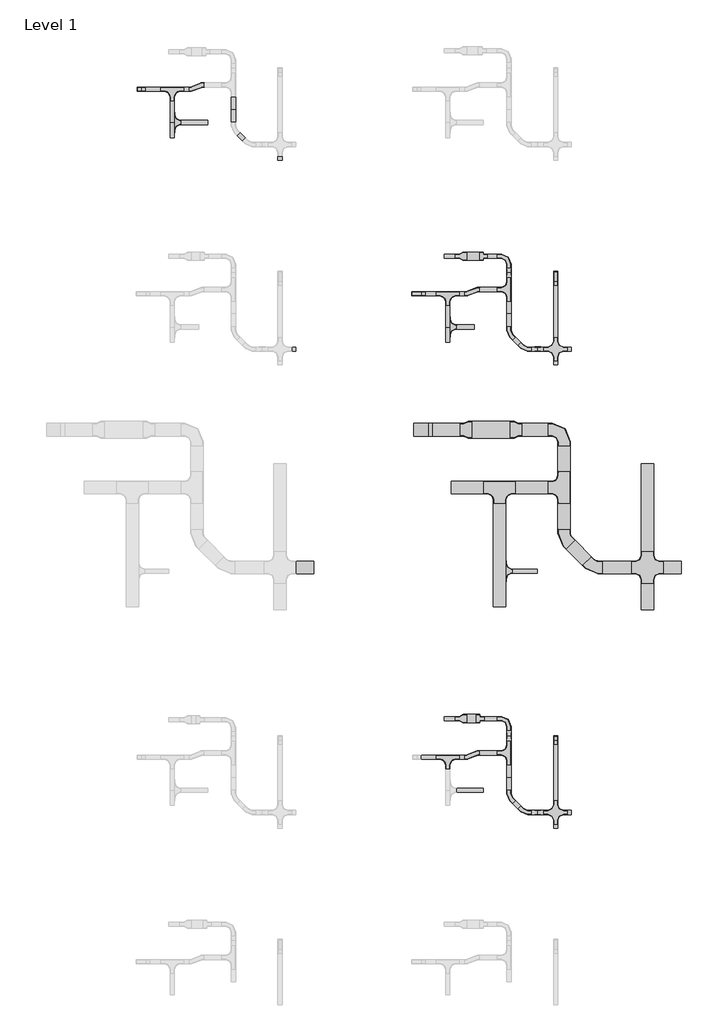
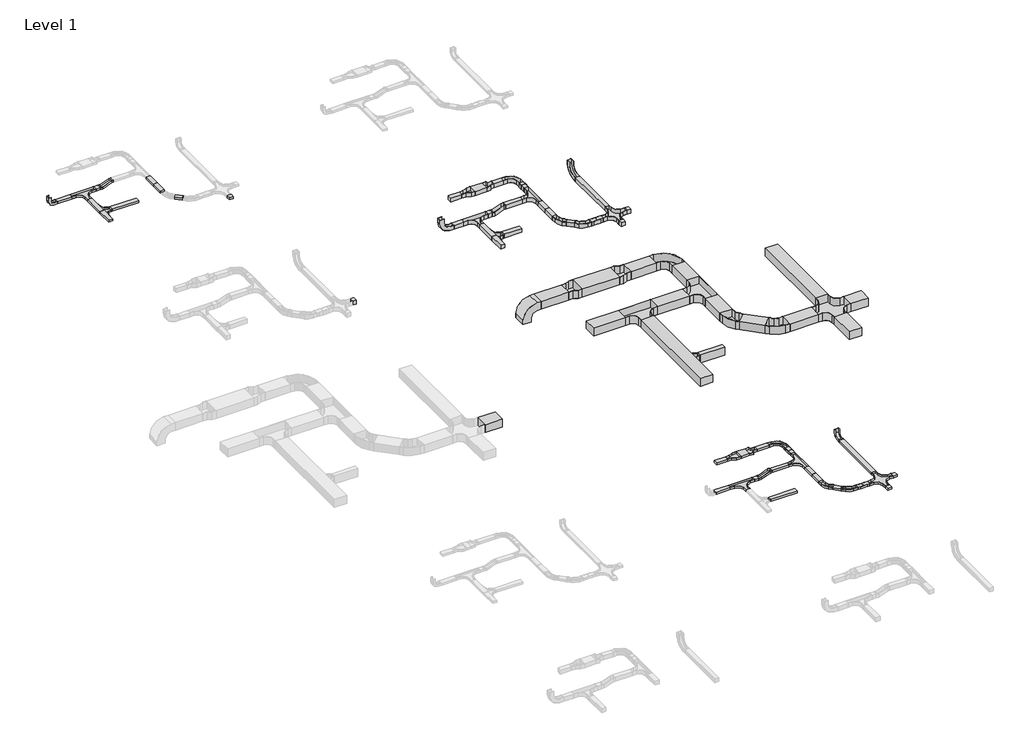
# One storey, part 3 of 7: 61 cable carrier segments, 40 cable carrier fittings.
"""IFC4 building model written with IfcOpenShell, lengths in millimetres."""

from ifc_helpers import new_model, si_unit, frame, origin, origin_with_axes, place, context, project, spatial, polyline, outline, extrude, transform, mapped, element, save
from components import cable_carrier_fitting_aaacfa07, cable_carrier_fitting_b0ef1419, cable_carrier_fitting_b06f5239, cable_carrier_fitting_c29a8226, cable_carrier_fitting_143960b7, cable_carrier_fitting_cc7a867a, cable_carrier_fitting_c2d22de5, cable_carrier_fitting_a196cc36, cable_carrier_fitting_4de17e9c, cable_carrier_fitting_7e9f8960, cable_carrier_fitting_9eb58628, cable_carrier_fitting_43fa0a0a, cable_carrier_fitting_37f5b24e, cable_carrier_fitting_3771e234, cable_carrier_fitting_3d14474d, cable_carrier_fitting_02b181c7, cable_carrier_fitting_d4cb8d73, cable_carrier_fitting_69659a00, cable_carrier_fitting_f591b558, cable_carrier_fitting_a9251f7c, cable_carrier_fitting_ed02f7b7, cable_carrier_fitting_4019ad99, cable_carrier_fitting_91e97af7, cable_carrier_fitting_eaf42c59, cable_carrier_fitting_6664680e, cable_carrier_fitting_0d8af748, cable_carrier_fitting_d9c8c3b4, cable_carrier_fitting_cb4cf4fc, rkh100_6825da00, rkh50_caab6538

model = new_model("IFC4")

# Units and contexts
model_context = context("Model", 3, world=origin())
ifc_project = project(units=[si_unit("LENGTHUNIT", "METRE", prefix="MILLI")], contexts=[model_context])

# Site, building, storey
site = spatial("IfcSite", under=ifc_project)
building = spatial("IfcBuilding", under=site)
storey = spatial("IfcBuildingStorey", under=building, Name="Level 1", Elevation=0.0)

# Cable carrier fittings
placement = place(None, origin())
cable_carrier_fitting_shape = cable_carrier_fitting_aaacfa07(model_context)
element("IfcCableCarrierFitting", 1, ObjectType="BAKS_Plate_connector : LZCH100", at=placement, inside=storey, context=model_context, shape_type="MappedRepresentation", body=[
    mapped(cable_carrier_fitting_shape, transform((-10770.1659964, 30949.0221963, 50.0), x_axis=(0.0, -1.0, 0.0), y_axis=(1.0, 0.0, 0.0), z_axis=(0.0, 0.0, 1.0))),
])
element("IfcCableCarrierFitting", 2, ObjectType="BAKS_Plate_connector : LZCH100", at=placement, inside=storey, context=model_context, shape_type="MappedRepresentation", body=[
    mapped(cable_carrier_fitting_shape, transform((-10081.6917019, 29108.6669458, 50.0), x_axis=(-1.0, 0.0, 0.0), y_axis=(0.0, -1.0, 0.0), z_axis=(0.0, 0.0, 1.0))),
])
cable_carrier_fitting_2_shape = cable_carrier_fitting_b0ef1419(model_context)
element("IfcCableCarrierFitting", 3, ObjectType="BAKS_Plate_connector : LZCH50", at=placement, inside=storey, context=model_context, shape_type="MappedRepresentation", body=[
    mapped(cable_carrier_fitting_2_shape, transform((-10770.1659964, 19849.0221963, 50.0), x_axis=(0.0, -1.0, 0.0), y_axis=(1.0, 0.0, 0.0), z_axis=(0.0, 0.0, 1.0))),
])
element("IfcCableCarrierFitting", 4, ObjectType="BAKS_Plate_connector : LZCH50", at=placement, inside=storey, context=model_context, shape_type="MappedRepresentation", body=[
    mapped(cable_carrier_fitting_2_shape, transform((-10081.6917019, 18008.6669458, 50.0), x_axis=(-1.0, 0.0, 0.0), y_axis=(0.0, -1.0, 0.0), z_axis=(0.0, 0.0, 1.0))),
])
cable_carrier_fitting_3_shape = cable_carrier_fitting_b06f5239(model_context)
element("IfcCableCarrierFitting", 5, ObjectType="BAKS_Tee_TKZD : TKZDPH200", at=placement, inside=storey, context=model_context, shape_type="MappedRepresentation", body=[
    mapped(cable_carrier_fitting_3_shape, transform((-10842.1461338, 23790.6717205, 0.0), x_axis=(0.0, 1.0, 0.0), y_axis=(-1.0, 0.0, 0.0), z_axis=(0.0, 0.0, 1.0))),
])
cable_carrier_fitting_4_shape = cable_carrier_fitting_c29a8226(model_context)
element("IfcCableCarrierFitting", 6, ObjectType="BAKS_Tee_TKZD : TKZDPH50", at=placement, inside=storey, context=model_context, shape_type="MappedRepresentation", body=[
    mapped(cable_carrier_fitting_4_shape, transform((-18785.25983, 34537.8311496, 50.0), x_axis=(0.0, 1.0, 0.0), y_axis=(-1.0, 0.0, 0.0), z_axis=(0.0, 0.0, 1.0))),
])
cable_carrier_fitting_5_shape = cable_carrier_fitting_143960b7(model_context)
element("IfcCableCarrierFitting", 7, ObjectType="BAKS_Tee_TKZD : TKZDPH100", at=placement, inside=storey, context=model_context, shape_type="MappedRepresentation", body=[
    mapped(cable_carrier_fitting_5_shape, transform((-12185.25983, 29637.8311496, 50.0), x_axis=(0.0, 1.0, 0.0), y_axis=(-1.0, 0.0, 0.0), z_axis=(0.0, 0.0, 1.0))),
])
cable_carrier_fitting_6_shape = cable_carrier_fitting_cc7a867a(model_context)
element("IfcCableCarrierFitting", 8, ObjectType="BAKS_Tee_TKZ : TKZPH50", at=placement, inside=storey, context=model_context, shape_type="MappedRepresentation", body=[
    mapped(cable_carrier_fitting_6_shape, transform((-18835.25983, 35336.0286879, 50.0), x_axis=(1.0, 0.0, 0.0), y_axis=(0.0, 1.0, 0.0), z_axis=(0.0, 0.0, 1.0))),
])
cable_carrier_fitting_7_shape = cable_carrier_fitting_c2d22de5(model_context)
element("IfcCableCarrierFitting", 9, ObjectType="BAKS_Tee_TKZ : TKZCH100", at=placement, inside=storey, context=model_context, shape_type="MappedRepresentation", body=[
    mapped(cable_carrier_fitting_7_shape, transform((-12235.25983, 30436.0286879, 50.0), x_axis=(1.0, 0.0, 0.0), y_axis=(0.0, 1.0, 0.0), z_axis=(0.0, 0.0, 1.0))),
])
element("IfcCableCarrierFitting", 10, ObjectType="BAKS_Tee_TKZ : TKZCH100", at=placement, inside=storey, context=model_context, shape_type="MappedRepresentation", body=[
    mapped(cable_carrier_fitting_7_shape, transform((-10770.1659964, 30536.0286879, 50.0), x_axis=(0.0, -1.0, 0.0), y_axis=(1.0, 0.0, 0.0), z_axis=(0.0, 0.0, 1.0))),
])
cable_carrier_fitting_8_shape = cable_carrier_fitting_a196cc36(model_context)
element("IfcCableCarrierFitting", 11, ObjectType="BAKS_Tee_TKZ : TKZCH50", at=placement, inside=storey, context=model_context, shape_type="MappedRepresentation", body=[
    mapped(cable_carrier_fitting_8_shape, transform((-12235.25983, 19336.0286879, 50.0), x_axis=(1.0, 0.0, 0.0), y_axis=(0.0, 1.0, 0.0), z_axis=(0.0, 0.0, 1.0))),
])
element("IfcCableCarrierFitting", 12, ObjectType="BAKS_Tee_TKZ : TKZCH50", at=placement, inside=storey, context=model_context, shape_type="MappedRepresentation", body=[
    mapped(cable_carrier_fitting_8_shape, transform((-10770.1659964, 19436.0286879, 50.0), x_axis=(0.0, -1.0, 0.0), y_axis=(1.0, 0.0, 0.0), z_axis=(0.0, 0.0, 1.0))),
])
cable_carrier_fitting_9_shape = cable_carrier_fitting_4de17e9c(model_context)
element("IfcCableCarrierFitting", 13, ObjectType="BAKS_Cross-section_CZKZ : CZKZCH50", at=placement, inside=storey, context=model_context, shape_type="MappedRepresentation", body=[
    mapped(cable_carrier_fitting_9_shape, transform((-9653.0791495, 18008.6669458, 50.0), x_axis=(-1.0, 0.0, 0.0), y_axis=(0.0, -1.0, 0.0), z_axis=(0.0, 0.0, 1.0))),
])
cable_carrier_fitting_10_shape = cable_carrier_fitting_7e9f8960(model_context)
element("IfcCableCarrierFitting", 14, ObjectType="BAKS_Cross-section_CZKZ : CZKZCH100", at=placement, inside=storey, context=model_context, shape_type="MappedRepresentation", body=[
    mapped(cable_carrier_fitting_10_shape, transform((-9653.0791495, 29108.6669458, 50.0), x_axis=(1.0, 0.0, 0.0), y_axis=(0.0, 1.0, 0.0), z_axis=(0.0, 0.0, 1.0))),
])
cable_carrier_fitting_11_shape = cable_carrier_fitting_9eb58628(model_context)
element("IfcCableCarrierFitting", 15, ObjectType="BAKS_Reduction-symmetrical_RKZ : RKZCH50", at=placement, inside=storey, context=model_context, shape_type="MappedRepresentation", body=[
    mapped(cable_carrier_fitting_11_shape, transform((-11765.6659964, 20257.0157047, 50.0), x_axis=(-1.0, 0.0, 0.0), y_axis=(0.0, -1.0, 0.0), z_axis=(0.0, 0.0, 1.0))),
])
cable_carrier_fitting_12_shape = cable_carrier_fitting_43fa0a0a(model_context)
element("IfcCableCarrierFitting", 16, ObjectType="BAKS_Reduction-symmetrical_RKZ : RKZCH100", at=placement, inside=storey, context=model_context, shape_type="MappedRepresentation", body=[
    mapped(cable_carrier_fitting_12_shape, transform((-11765.6659964, 31332.0157047, 50.0), x_axis=(-1.0, 0.0, 0.0), y_axis=(0.0, -1.0, 0.0), z_axis=(0.0, 0.0, 1.0))),
])
cable_carrier_fitting_13_shape = cable_carrier_fitting_37f5b24e(model_context)
element("IfcCableCarrierFitting", 17, ObjectType="BAKS_Bypass_horizontal_left_OPZL : OPZLCH50", at=placement, inside=storey, context=model_context, shape_type="MappedRepresentation", body=[
    mapped(cable_carrier_fitting_13_shape, transform((-11655.25983, 19386.0286879, 25.0), x_axis=(1.0, 0.0, 0.0), y_axis=(0.0, 1.0, 0.0), z_axis=(0.0, 0.0, 1.0))),
])
cable_carrier_fitting_14_shape = cable_carrier_fitting_3771e234(model_context)
element("IfcCableCarrierFitting", 18, ObjectType="BAKS_Bypass_horizontal_left_OPZL : OPZLCH100", at=placement, inside=storey, context=model_context, shape_type="MappedRepresentation", body=[
    mapped(cable_carrier_fitting_14_shape, transform((-11655.25983, 30486.0286879, 0.0), x_axis=(1.0, 0.0, 0.0), y_axis=(0.0, 1.0, 0.0), z_axis=(0.0, 0.0, 1.0))),
])
cable_carrier_fitting_15_shape = cable_carrier_fitting_3d14474d(model_context)
element("IfcCableCarrierFitting", 19, ObjectType="BAKS_Bypass_horizontal_left_OPZL : OPZLPH50", at=placement, inside=storey, context=model_context, shape_type="MappedRepresentation", body=[
    mapped(cable_carrier_fitting_15_shape, transform((-18255.25983, 35386.0286879, 25.0), x_axis=(1.0, 0.0, 0.0), y_axis=(0.0, 1.0, 0.0), z_axis=(0.0, 0.0, 1.0))),
])
cable_carrier_fitting_16_shape = cable_carrier_fitting_02b181c7(model_context)
element("IfcCableCarrierFitting", 20, ObjectType="BAKS_Elbow_KKZ : KKZC/KKZMC...H50", at=placement, inside=storey, context=model_context, shape_type="MappedRepresentation", body=[
    mapped(cable_carrier_fitting_16_shape, transform((-10399.0048312, 18008.6669458, 50.0), x_axis=(0.7071067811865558, -0.7071067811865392, 0.0), y_axis=(0.7071067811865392, 0.7071067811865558, 0.0), z_axis=(0.0, 0.0, 1.0))),
])
element("IfcCableCarrierFitting", 21, ObjectType="BAKS_Elbow_KKZ : KKZC/KKZMC...H50", at=placement, inside=storey, context=model_context, shape_type="MappedRepresentation", body=[
    mapped(cable_carrier_fitting_16_shape, transform((-10770.1659964, 18379.8281111, 50.0), x_axis=(0.0, -1.0, 0.0), y_axis=(1.0, 0.0, 0.0), z_axis=(0.0, 0.0, 1.0))),
])
cable_carrier_fitting_17_shape = cable_carrier_fitting_d4cb8d73(model_context)
element("IfcCableCarrierFitting", 22, ObjectType="BAKS_Elbow_KKZ : KKZC/KKZMC...H100", at=placement, inside=storey, context=model_context, shape_type="MappedRepresentation", body=[
    mapped(cable_carrier_fitting_17_shape, transform((-10399.0048312, 29108.6669458, 50.0), x_axis=(0.7071067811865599, -0.7071067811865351, 0.0), y_axis=(0.7071067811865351, 0.7071067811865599, 0.0), z_axis=(0.0, 0.0, 1.0))),
])
element("IfcCableCarrierFitting", 23, ObjectType="BAKS_Elbow_KKZ : KKZC/KKZMC...H100", at=placement, inside=storey, context=model_context, shape_type="MappedRepresentation", body=[
    mapped(cable_carrier_fitting_17_shape, transform((-10770.1659964, 29479.8281111, 50.0), x_axis=(0.0, -1.0, 0.0), y_axis=(1.0, 0.0, 0.0), z_axis=(0.0, 0.0, 1.0))),
])
cable_carrier_fitting_18_shape = cable_carrier_fitting_69659a00(model_context)
element("IfcCableCarrierFitting", 24, ObjectType="BAKS_Elbow_KKZ : KKZC/KKZMC...H100", at=placement, inside=storey, context=model_context, shape_type="MappedRepresentation", body=[
    mapped(cable_carrier_fitting_18_shape, transform((-10770.1659964, 31332.0157047, 50.0), x_axis=(0.0, 1.0, 0.0), y_axis=(-1.0, 0.0, 0.0), z_axis=(0.0, 0.0, 1.0))),
])
cable_carrier_fitting_19_shape = cable_carrier_fitting_f591b558(model_context)
element("IfcCableCarrierFitting", 25, ObjectType="BAKS_Elbow_KKZ : KKZC/KKZMC...H50", at=placement, inside=storey, context=model_context, shape_type="MappedRepresentation", body=[
    mapped(cable_carrier_fitting_19_shape, transform((-10770.1659964, 20257.0157047, 50.0), x_axis=(0.0, 1.0, 0.0), y_axis=(-1.0, 0.0, 0.0), z_axis=(0.0, 0.0, 1.0))),
])
cable_carrier_fitting_20_shape = cable_carrier_fitting_a9251f7c(model_context)
element("IfcCableCarrierFitting", 26, ObjectType="BAKS_Vertical_bend_int : LZWPH50/LZWMPH50", at=placement, inside=storey, context=model_context, shape_type="MappedRepresentation", body=[
    mapped(cable_carrier_fitting_20_shape, transform((-19652.5998175, 35336.0286879, 50.0), x_axis=(-1.0, 0.0, 0.0), y_axis=(0.0, 0.0, 1.0), z_axis=(0.0, 1.0, 0.0))),
])
element("IfcCableCarrierFitting", 27, ObjectType="BAKS_Vertical_bend_int : LZWCH50/LZWMCH50", at=placement, inside=storey, context=model_context, shape_type="MappedRepresentation", body=[
    mapped(cable_carrier_fitting_20_shape, transform((-9653.0791495, 19818.5286879, 50.0), x_axis=(0.0, 1.0, 0.0), y_axis=(0.0, 0.0, 1.0), z_axis=(1.0, 0.0, 0.0))),
])
cable_carrier_fitting_21_shape = cable_carrier_fitting_ed02f7b7(model_context)
element("IfcCableCarrierFitting", 28, ObjectType="BAKS_Vertical_bend_int : LZWCH100/LZWMCH100", at=placement, inside=storey, context=model_context, shape_type="MappedRepresentation", body=[
    mapped(cable_carrier_fitting_21_shape, transform((-13052.5998175, 30436.0286879, 50.0), x_axis=(-1.0, 0.0, 0.0), y_axis=(0.0, 0.0, 1.0), z_axis=(0.0, 1.0, 0.0))),
])
element("IfcCableCarrierFitting", 29, ObjectType="BAKS_Vertical_bend_int : LZWCH100/LZWMCH100", at=placement, inside=storey, context=model_context, shape_type="MappedRepresentation", body=[
    mapped(cable_carrier_fitting_21_shape, transform((-9653.0791495, 30918.5286879, 50.0), x_axis=(0.0, 1.0, 0.0), y_axis=(0.0, 0.0, 1.0), z_axis=(1.0, 0.0, 0.0))),
])
cable_carrier_fitting_22_shape = cable_carrier_fitting_4019ad99(model_context)
element("IfcCableCarrierFitting", 30, ObjectType="BAKS_Vertical_bend_int : LZWPH200/LZWMPH200", at=placement, inside=storey, context=model_context, shape_type="MappedRepresentation", body=[
    mapped(cable_carrier_fitting_22_shape, transform((-12947.1461338, 27177.2890583, 50.0), x_axis=(-1.0, 0.0, 0.0), y_axis=(0.0, 0.0, -1.0), z_axis=(0.0, -1.0, 0.0))),
])
cable_carrier_fitting_23_shape = cable_carrier_fitting_91e97af7(model_context)
element("IfcCableCarrierFitting", 31, ObjectType="BAKS_Elbow_KKZ : KKZC/KKZMC...H200", at=placement, inside=storey, context=model_context, shape_type="MappedRepresentation", body=[
    mapped(cable_carrier_fitting_23_shape, transform((-8747.1134218, 23877.2563463, 50.0), x_axis=(0.7071067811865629, -0.7071067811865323, 0.0), y_axis=(0.7071067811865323, 0.7071067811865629, 0.0), z_axis=(0.0, 0.0, 1.0))),
])
element("IfcCableCarrierFitting", 32, ObjectType="BAKS_Elbow_KKZ : KKZC/KKZMC...H200", at=placement, inside=storey, context=model_context, shape_type="MappedRepresentation", body=[
    mapped(cable_carrier_fitting_23_shape, transform((-9447.1461338, 24577.2890583, 50.0), x_axis=(0.0, -1.0, 0.0), y_axis=(1.0, 0.0, 0.0), z_axis=(0.0, 0.0, 1.0))),
])
cable_carrier_fitting_24_shape = cable_carrier_fitting_eaf42c59(model_context)
element("IfcCableCarrierFitting", 33, ObjectType="BAKS_Elbow_KKZ : KKZC/KKZMC...H200", at=placement, inside=storey, context=model_context, shape_type="MappedRepresentation", body=[
    mapped(cable_carrier_fitting_24_shape, transform((-9447.1461338, 27177.2890583, 50.0), x_axis=(0.0, 1.0, 0.0), y_axis=(-1.0, 0.0, 0.0), z_axis=(0.0, 0.0, 1.0))),
])
cable_carrier_fitting_25_shape = cable_carrier_fitting_6664680e(model_context)
element("IfcCableCarrierFitting", 34, ObjectType="BAKS_Cross-section_CZKZ : CZKZCH200", at=placement, inside=storey, context=model_context, shape_type="MappedRepresentation", body=[
    mapped(cable_carrier_fitting_25_shape, transform((-7453.0791495, 23877.2563463, 50.0), x_axis=(1.0, 0.0, 0.0), y_axis=(0.0, 1.0, 0.0), z_axis=(0.0, 0.0, 1.0))),
])
cable_carrier_fitting_26_shape = cable_carrier_fitting_0d8af748(model_context)
element("IfcCableCarrierFitting", 35, ObjectType="BAKS_Tee_TKZ : TKZCH200", at=placement, inside=storey, context=model_context, shape_type="MappedRepresentation", body=[
    mapped(cable_carrier_fitting_26_shape, transform((-9447.1461338, 25792.3500248, 50.0), x_axis=(0.0, -1.0, 0.0), y_axis=(1.0, 0.0, 0.0), z_axis=(0.0, 0.0, 1.0))),
])
element("IfcCableCarrierFitting", 36, ObjectType="BAKS_Tee_TKZ : TKZCH200", at=placement, inside=storey, context=model_context, shape_type="MappedRepresentation", body=[
    mapped(cable_carrier_fitting_26_shape, transform((-10992.1461338, 25792.3500248, 50.0), x_axis=(1.0, 0.0, 0.0), y_axis=(0.0, 1.0, 0.0), z_axis=(0.0, 0.0, 1.0))),
])
cable_carrier_fitting_27_shape = cable_carrier_fitting_d9c8c3b4(model_context)
element("IfcCableCarrierFitting", 37, ObjectType="BAKS_Reduction-symmetrical_RKZ : RKZCH200", at=placement, inside=storey, context=model_context, shape_type="MappedRepresentation", body=[
    mapped(cable_carrier_fitting_27_shape, transform((-11647.1461338, 27177.2890583, 50.0), x_axis=(-1.0, 0.0, 0.0), y_axis=(0.0, -1.0, 0.0), z_axis=(0.0, 0.0, 1.0))),
])
cable_carrier_fitting_28_shape = cable_carrier_fitting_cb4cf4fc(model_context)
element("IfcCableCarrierFitting", 38, ObjectType="BAKS_Reduction-symmetrical_RKZ : RKZCH200", at=placement, inside=storey, context=model_context, shape_type="MappedRepresentation", body=[
    mapped(cable_carrier_fitting_28_shape, transform((-10447.1461338, 27177.2890583, 50.0), x_axis=(-1.0, 0.0, 0.0), y_axis=(0.0, -1.0, 0.0), z_axis=(0.0, 0.0, 1.0))),
])
rkh100_shape = rkh100_6825da00(model_context)
element("IfcCableCarrierFitting", 39, ObjectType="BAKS_Reduction-angular_RK : RKH100", at=placement, inside=storey, context=model_context, shape_type="MappedRepresentation", body=[
    mapped(rkh100_shape, transform((-11487.711196, 31332.0157047, 50.0), x_axis=(1.0, 0.0, 0.0), y_axis=(0.0, 1.0, 0.0), z_axis=(0.0, 0.0, 1.0))),
])
rkh50_shape = rkh50_caab6538(model_context)
element("IfcCableCarrierFitting", 40, ObjectType="BAKS_Reduction-angular_RK : RKH50", at=placement, inside=storey, context=model_context, shape_type="MappedRepresentation", body=[
    mapped(rkh50_shape, transform((-11564.1695214, 20257.0157047, 50.0), x_axis=(1.0, 0.0, 0.0), y_axis=(0.0, 1.0, 0.0), z_axis=(0.0, 0.0, 1.0))),
])

# Cable carrier segments
element("IfcCableCarrierSegment", 41, ObjectType="BAKS - Reinforced cable tray H50 (KZWP)", at=placement, inside=storey, context=model_context, shape_type="SweptSolid", body=[
    extrude(outline(polyline([(-18445.25983, 35386.0286879), (-18445.25983, 35286.0286879), (-18545.25983, 35286.0286879), (-18545.25983, 35386.0286879), (-18445.25983, 35386.0286879)])), frame((0.0, 0.0, 25.0), z_axis=(0.0, 0.0, 1.0), x_axis=(1.0, 0.0, 0.0)), (0.0, 0.0, 1.0), 50.0),
])
element("IfcCableCarrierSegment", 42, ObjectType="BAKS - Reinforced cable tray H50 (KZWP)", at=placement, inside=storey, context=model_context, shape_type="SweptSolid", body=[
    extrude(outline(polyline([(-18885.25983, 35046.0286879), (-18785.25983, 35046.0286879), (-18785.25983, 34538.373241), (-18885.25983, 34538.373241), (-18885.25983, 35046.0286879)])), frame((0.0, 0.0, 25.0), z_axis=(0.0, 0.0, 1.0), x_axis=(1.0, 0.0, 0.0)), (0.0, 0.0, 1.0), 50.0),
])
element("IfcCableCarrierSegment", 43, ObjectType="BAKS - Reinforced cable tray H50 (KZWP)", at=placement, inside=storey, context=model_context, shape_type="SweptSolid", body=[
    extrude(outline(polyline([(-18885.25983, 34537.2890583), (-18785.25983, 34537.2890583), (-18785.25983, 34177.2890583), (-18885.25983, 34177.2890583), (-18885.25983, 34537.2890583)])), frame((0.0, 0.0, 25.0), z_axis=(0.0, 0.0, 1.0), x_axis=(1.0, 0.0, 0.0)), (0.0, 0.0, 1.0), 50.0),
])
element("IfcCableCarrierSegment", 44, ObjectType="BAKS - Reinforced cable tray H50 (KZWP)", at=placement, inside=storey, context=model_context, shape_type="SweptSolid", body=[
    extrude(outline(polyline([(-19125.25983, 35386.0286879), (-19125.25983, 35286.0286879), (-19467.5998175, 35286.0286879), (-19467.5998175, 35386.0286879), (-19125.25983, 35386.0286879)])), frame((0.0, 0.0, 25.0), z_axis=(0.0, 0.0, 1.0), x_axis=(1.0, 0.0, 0.0)), (0.0, 0.0, 1.0), 50.0),
])
element("IfcCableCarrierSegment", 45, ObjectType="BAKS - Reinforced cable tray H100 (KZWC)", at=placement, inside=storey, context=model_context, shape_type="SweptSolid", body=[
    extrude(outline(polyline([(-12065.6659964, 31382.0157047), (-12065.6659964, 31282.0157047), (-12324.6659964, 31282.0157047), (-12324.6659964, 31382.0157047), (-12065.6659964, 31382.0157047)])), origin_with_axes(), (0.0, 0.0, 1.0), 100.0),
])
element("IfcCableCarrierSegment", 46, ObjectType="BAKS - Reinforced cable tray H100 (KZWC)", at=placement, inside=storey, context=model_context, shape_type="SweptSolid", body=[
    extrude(outline(polyline([(-11765.6659964, 31232.0157047), (-11765.6659964, 31432.0157047), (-11487.711196, 31432.0157047), (-11487.711196, 31232.0157047), (-11765.6659964, 31232.0157047)])), origin_with_axes(), (0.0, 0.0, 1.0), 100.0),
])
element("IfcCableCarrierSegment", 47, ObjectType="BAKS - Reinforced cable tray H100 (KZWC)", at=placement, inside=storey, context=model_context, shape_type="SweptSolid", body=[
    extrude(outline(polyline([(-11845.25983, 30486.0286879), (-11845.25983, 30386.0286879), (-11945.25983, 30386.0286879), (-11945.25983, 30486.0286879), (-11845.25983, 30486.0286879)])), origin_with_axes(), (0.0, 0.0, 1.0), 100.0),
])
element("IfcCableCarrierSegment", 48, ObjectType="BAKS - Reinforced cable tray H100 (KZWC)", at=placement, inside=storey, context=model_context, shape_type="SweptSolid", body=[
    extrude(outline(polyline([(-12762.5998175, 30386.0286879), (-12762.5998175, 30486.0286879), (-12525.25983, 30486.0286879), (-12525.25983, 30386.0286879), (-12762.5998175, 30386.0286879)])), origin_with_axes(), (0.0, 0.0, 1.0), 100.0),
])
element("IfcCableCarrierSegment", 49, ObjectType="BAKS - Reinforced cable tray H100 (KZWC)", at=placement, inside=storey, context=model_context, shape_type="SweptSolid", body=[
    extrude(outline(polyline([(-12285.25983, 30146.0286879), (-12185.25983, 30146.0286879), (-12185.25983, 29638.373241), (-12285.25983, 29638.373241), (-12285.25983, 30146.0286879)])), origin_with_axes(), (0.0, 0.0, 1.0), 100.0),
])
element("IfcCableCarrierSegment", 50, ObjectType="BAKS - Reinforced cable tray H100 (KZWC)", at=placement, inside=storey, context=model_context, shape_type="SweptSolid", body=[
    extrude(outline(polyline([(-12285.25983, 29637.2890583), (-12185.25983, 29637.2890583), (-12185.25983, 29277.2890583), (-12285.25983, 29277.2890583), (-12285.25983, 29637.2890583)])), origin_with_axes(), (0.0, 0.0, 1.0), 100.0),
])
element("IfcCableCarrierSegment", 51, ObjectType="BAKS - Reinforced cable tray with welded connector H50 (KZLWC)", at=placement, inside=storey, context=model_context, shape_type="SweptSolid", body=[
    extrude(outline(polyline([(-11564.1695214, 20357.0157047), (-11564.1695214, 20157.0157047), (-11765.6659964, 20157.0157047), (-11765.6659964, 20357.0157047), (-11564.1695214, 20357.0157047)])), frame((0.0, 0.0, 25.0), z_axis=(0.0, 0.0, 1.0), x_axis=(1.0, 0.0, 0.0)), (0.0, 0.0, 1.0), 50.0),
])
element("IfcCableCarrierSegment", 52, ObjectType="BAKS - Reinforced cable tray with welded connector H50 (KZLWC)", at=placement, inside=storey, context=model_context, shape_type="SweptSolid", body=[
    extrude(outline(polyline([(-12065.6659964, 20307.0157047), (-12065.6659964, 20207.0157047), (-12324.6659964, 20207.0157047), (-12324.6659964, 20307.0157047), (-12065.6659964, 20307.0157047)])), frame((0.0, 0.0, 25.0), z_axis=(0.0, 0.0, 1.0), x_axis=(1.0, 0.0, 0.0)), (0.0, 0.0, 1.0), 50.0),
])
element("IfcCableCarrierSegment", 53, ObjectType="BAKS - Reinforced cable tray with welded connector H50 (KZLWC)", at=placement, inside=storey, context=model_context, shape_type="SweptSolid", body=[
    extrude(outline(polyline([(-11845.25983, 19386.0286879), (-11845.25983, 19286.0286879), (-11945.25983, 19286.0286879), (-11945.25983, 19386.0286879), (-11845.25983, 19386.0286879)])), frame((0.0, 0.0, 25.0), z_axis=(0.0, 0.0, 1.0), x_axis=(1.0, 0.0, 0.0)), (0.0, 0.0, 1.0), 50.0),
])
element("IfcCableCarrierSegment", 54, ObjectType="BAKS - Reinforced cable tray with welded connector H50 (KZLWC)", at=placement, inside=storey, context=model_context, shape_type="SweptSolid", body=[
    extrude(outline(polyline([(-12525.25983, 19386.0286879), (-12525.25983, 19286.0286879), (-12867.5998175, 19286.0286879), (-12867.5998175, 19386.0286879), (-12525.25983, 19386.0286879)])), frame((0.0, 0.0, 25.0), z_axis=(0.0, 0.0, 1.0), x_axis=(1.0, 0.0, 0.0)), (0.0, 0.0, 1.0), 50.0),
])
element("IfcCableCarrierSegment", 55, ObjectType="BAKS - Reinforced cable tray H50 (KZWP)", at=placement, inside=storey, context=model_context, shape_type="SweptSolid", body=[
    extrude(outline(polyline([(-17420.1659964, 35146.0286879), (-17320.1659964, 35146.0286879), (-17320.1659964, 34853.2786879), (-17420.1659964, 34853.2786879), (-17420.1659964, 35146.0286879)])), frame((0.0, 0.0, 25.0), z_axis=(0.0, 0.0, 1.0), x_axis=(1.0, 0.0, 0.0)), (0.0, 0.0, 1.0), 50.0),
])
element("IfcCableCarrierSegment", 56, ObjectType="BAKS - Reinforced cable tray H50 (KZWP)", at=placement, inside=storey, context=model_context, shape_type="SweptSolid", body=[
    extrude(outline(polyline([(-17090.0098818, 34170.3826746), (-17160.72056, 34099.6719965), (-17279.1609458, 34218.1123823), (-17208.4502677, 34288.8230604), (-17090.0098818, 34170.3826746)])), frame((0.0, 0.0, 25.0), z_axis=(0.0, 0.0, 1.0), x_axis=(1.0, 0.0, 0.0)), (0.0, 0.0, 1.0), 50.0),
])
element("IfcCableCarrierSegment", 57, ObjectType="BAKS - Reinforced cable tray H50 (KZWP)", at=placement, inside=storey, context=model_context, shape_type="SweptSolid", body=[
    extrude(outline(polyline([(-17320.1659964, 34558.5286879), (-17420.1659964, 34558.5286879), (-17420.1659964, 34852.2786879), (-17320.1659964, 34852.2786879), (-17320.1659964, 34558.5286879)])), frame((0.0, 0.0, 25.0), z_axis=(0.0, 0.0, 1.0), x_axis=(1.0, 0.0, 0.0)), (0.0, 0.0, 1.0), 50.0),
])
element("IfcCableCarrierSegment", 58, ObjectType="BAKS - Reinforced cable tray H50 (KZWP)", at=placement, inside=storey, context=model_context, shape_type="SweptSolid", body=[
    extrude(outline(polyline([(-16203.0791495, 33628.6910816), (-16303.0791495, 33628.6910816), (-16303.0791495, 33718.6669458), (-16203.0791495, 33718.6669458), (-16203.0791495, 33628.6910816)])), frame((0.0, 0.0, 25.0), z_axis=(0.0, 0.0, 1.0), x_axis=(1.0, 0.0, 0.0)), (0.0, 0.0, 1.0), 50.0),
])
element("IfcCableCarrierSegment", 59, ObjectType="BAKS - Reinforced cable tray H100 (KZWP)", at=placement, inside=storey, context=model_context, shape_type="SweptSolid", body=[
    extrude(outline(polyline([(-15878.9791495, 29158.6669458), (-15878.9791495, 29058.6669458), (-15963.0791495, 29058.6669458), (-15963.0791495, 29158.6669458), (-15878.9791495, 29158.6669458)])), origin_with_axes(), (0.0, 0.0, 1.0), 100.0),
])
element("IfcCableCarrierSegment", 60, ObjectType="BAKS - Reinforced cable tray H100 (KZWC)", at=placement, inside=storey, context=model_context, shape_type="SweptSolid", body=[
    extrude(outline(polyline([(-10820.1659964, 30246.0286879), (-10720.1659964, 30246.0286879), (-10720.1659964, 29953.2786879), (-10820.1659964, 29953.2786879), (-10820.1659964, 30246.0286879)])), origin_with_axes(), (0.0, 0.0, 1.0), 100.0),
])
element("IfcCableCarrierSegment", 61, ObjectType="BAKS - Reinforced cable tray H100 (KZWC)", at=placement, inside=storey, context=model_context, shape_type="SweptSolid", body=[
    extrude(outline(polyline([(-9943.0791495, 29158.6669458), (-9943.0791495, 29058.6669458), (-10081.6917019, 29058.6669458), (-10081.6917019, 29158.6669458), (-9943.0791495, 29158.6669458)])), origin_with_axes(), (0.0, 0.0, 1.0), 100.0),
])
element("IfcCableCarrierSegment", 62, ObjectType="BAKS - Reinforced cable tray H100 (KZWC)", at=placement, inside=storey, context=model_context, shape_type="SweptSolid", body=[
    extrude(outline(polyline([(-10082.6917019, 29158.6669458), (-10082.6917019, 29058.6669458), (-10220.3042544, 29058.6669458), (-10220.3042544, 29158.6669458), (-10082.6917019, 29158.6669458)])), origin_with_axes(), (0.0, 0.0, 1.0), 100.0),
])
element("IfcCableCarrierSegment", 63, ObjectType="BAKS - Reinforced cable tray H100 (KZWC)", at=placement, inside=storey, context=model_context, shape_type="SweptSolid", body=[
    extrude(outline(polyline([(-10490.0098818, 29270.3826746), (-10560.72056, 29199.6719965), (-10679.1609458, 29318.1123823), (-10608.4502677, 29388.8230604), (-10490.0098818, 29270.3826746)])), origin_with_axes(), (0.0, 0.0, 1.0), 100.0),
])
element("IfcCableCarrierSegment", 64, ObjectType="BAKS - Reinforced cable tray H100 (KZWC)", at=placement, inside=storey, context=model_context, shape_type="SweptSolid", body=[
    extrude(outline(polyline([(-10720.1659964, 29658.5286879), (-10820.1659964, 29658.5286879), (-10820.1659964, 29952.2786879), (-10720.1659964, 29952.2786879), (-10720.1659964, 29658.5286879)])), origin_with_axes(), (0.0, 0.0, 1.0), 100.0),
])
element("IfcCableCarrierSegment", 65, ObjectType="BAKS - Reinforced cable tray H100 (KZWC)", at=placement, inside=storey, context=model_context, shape_type="SweptSolid", body=[
    extrude(outline(polyline([(-11277.711196, 31282.0157047), (-11277.711196, 31382.0157047), (-11060.1659964, 31382.0157047), (-11060.1659964, 31282.0157047), (-11277.711196, 31282.0157047)])), origin_with_axes(), (0.0, 0.0, 1.0), 100.0),
])
element("IfcCableCarrierSegment", 66, ObjectType="BAKS - Reinforced cable tray H100 (KZWC)", at=placement, inside=storey, context=model_context, shape_type="SweptSolid", body=[
    extrude(outline(polyline([(-10820.1659964, 31042.0157047), (-10720.1659964, 31042.0157047), (-10720.1659964, 30949.0221963), (-10820.1659964, 30949.0221963), (-10820.1659964, 31042.0157047)])), origin_with_axes(), (0.0, 0.0, 1.0), 100.0),
])
element("IfcCableCarrierSegment", 67, ObjectType="BAKS - Reinforced cable tray H100 (KZWC)", at=placement, inside=storey, context=model_context, shape_type="SweptSolid", body=[
    extrude(outline(polyline([(-11465.25983, 30486.0286879), (-11465.25983, 30586.0286879), (-11060.1659964, 30586.0286879), (-11060.1659964, 30486.0286879), (-11465.25983, 30486.0286879)])), origin_with_axes(), (0.0, 0.0, 1.0), 100.0),
])
element("IfcCableCarrierSegment", 68, ObjectType="BAKS - Reinforced cable tray H100 (KZWC)", at=placement, inside=storey, context=model_context, shape_type="SweptSolid", body=[
    extrude(outline(polyline([(-9278.9791495, 29158.6669458), (-9278.9791495, 29058.6669458), (-9363.0791495, 29058.6669458), (-9363.0791495, 29158.6669458), (-9278.9791495, 29158.6669458)])), origin_with_axes(), (0.0, 0.0, 1.0), 100.0),
])
element("IfcCableCarrierSegment", 69, ObjectType="BAKS - Reinforced cable tray H100 (KZWC)", at=placement, inside=storey, context=model_context, shape_type="SweptSolid", body=[
    extrude(outline(polyline([(-9603.0791495, 28728.6669458), (-9703.0791495, 28728.6669458), (-9703.0791495, 28818.6669458), (-9603.0791495, 28818.6669458), (-9603.0791495, 28728.6669458)])), origin_with_axes(), (0.0, 0.0, 1.0), 100.0),
])
element("IfcCableCarrierSegment", 70, ObjectType="BAKS - Reinforced cable tray H100 (KZWC)", at=placement, inside=storey, context=model_context, shape_type="SweptSolid", body=[
    extrude(outline(polyline([(-9703.0791495, 30628.5286879), (-9603.0791495, 30628.5286879), (-9603.0791495, 29398.6669458), (-9703.0791495, 29398.6669458), (-9703.0791495, 30628.5286879)])), origin_with_axes(), (0.0, 0.0, 1.0), 100.0),
])
element("IfcCableCarrierSegment", 71, ObjectType="BAKS - Reinforced cable tray H100 (KZWC)", at=placement, inside=storey, context=model_context, shape_type="SweptSolid", body=[
    extrude(outline(polyline([(-10720.1659964, 30826.0286879), (-10820.1659964, 30826.0286879), (-10820.1659964, 30948.0221963), (-10720.1659964, 30948.0221963), (-10720.1659964, 30826.0286879)])), origin_with_axes(), (0.0, 0.0, 1.0), 100.0),
])
element("IfcCableCarrierSegment", 72, ObjectType="BAKS - Reinforced cable tray with welded connector H50 (KZLWC)", at=placement, inside=storey, context=model_context, shape_type="SweptSolid", body=[
    extrude(outline(polyline([(-10820.1659964, 19146.0286879), (-10720.1659964, 19146.0286879), (-10720.1659964, 18853.2786879), (-10820.1659964, 18853.2786879), (-10820.1659964, 19146.0286879)])), frame((0.0, 0.0, 25.0), z_axis=(0.0, 0.0, 1.0), x_axis=(1.0, 0.0, 0.0)), (0.0, 0.0, 1.0), 50.0),
])
element("IfcCableCarrierSegment", 73, ObjectType="BAKS - Reinforced cable tray with welded connector H50 (KZLWC)", at=placement, inside=storey, context=model_context, shape_type="SweptSolid", body=[
    extrude(outline(polyline([(-9943.0791495, 18058.6669458), (-9943.0791495, 17958.6669458), (-10081.6917019, 17958.6669458), (-10081.6917019, 18058.6669458), (-9943.0791495, 18058.6669458)])), frame((0.0, 0.0, 25.0), z_axis=(0.0, 0.0, 1.0), x_axis=(1.0, 0.0, 0.0)), (0.0, 0.0, 1.0), 50.0),
])
element("IfcCableCarrierSegment", 74, ObjectType="BAKS - Reinforced cable tray with welded connector H50 (KZLWC)", at=placement, inside=storey, context=model_context, shape_type="SweptSolid", body=[
    extrude(outline(polyline([(-10082.6917019, 18058.6669458), (-10082.6917019, 17958.6669458), (-10220.3042544, 17958.6669458), (-10220.3042544, 18058.6669458), (-10082.6917019, 18058.6669458)])), frame((0.0, 0.0, 25.0), z_axis=(0.0, 0.0, 1.0), x_axis=(1.0, 0.0, 0.0)), (0.0, 0.0, 1.0), 50.0),
])
element("IfcCableCarrierSegment", 75, ObjectType="BAKS - Reinforced cable tray with welded connector H50 (KZLWC)", at=placement, inside=storey, context=model_context, shape_type="SweptSolid", body=[
    extrude(outline(polyline([(-10490.0098818, 18170.3826746), (-10560.72056, 18099.6719965), (-10679.1609458, 18218.1123823), (-10608.4502677, 18288.8230604), (-10490.0098818, 18170.3826746)])), frame((0.0, 0.0, 25.0), z_axis=(0.0, 0.0, 1.0), x_axis=(1.0, 0.0, 0.0)), (0.0, 0.0, 1.0), 50.0),
])
element("IfcCableCarrierSegment", 76, ObjectType="BAKS - Reinforced cable tray with welded connector H50 (KZLWC)", at=placement, inside=storey, context=model_context, shape_type="SweptSolid", body=[
    extrude(outline(polyline([(-10720.1659964, 18558.5286879), (-10820.1659964, 18558.5286879), (-10820.1659964, 18852.2786879), (-10720.1659964, 18852.2786879), (-10720.1659964, 18558.5286879)])), frame((0.0, 0.0, 25.0), z_axis=(0.0, 0.0, 1.0), x_axis=(1.0, 0.0, 0.0)), (0.0, 0.0, 1.0), 50.0),
])
element("IfcCableCarrierSegment", 77, ObjectType="BAKS - Reinforced cable tray with welded connector H50 (KZLWC)", at=placement, inside=storey, context=model_context, shape_type="SweptSolid", body=[
    extrude(outline(polyline([(-11354.1695214, 20207.0157047), (-11354.1695214, 20307.0157047), (-11060.1659964, 20307.0157047), (-11060.1659964, 20207.0157047), (-11354.1695214, 20207.0157047)])), frame((0.0, 0.0, 25.0), z_axis=(0.0, 0.0, 1.0), x_axis=(1.0, 0.0, 0.0)), (0.0, 0.0, 1.0), 50.0),
])
element("IfcCableCarrierSegment", 78, ObjectType="BAKS - Reinforced cable tray with welded connector H50 (KZLWC)", at=placement, inside=storey, context=model_context, shape_type="SweptSolid", body=[
    extrude(outline(polyline([(-10820.1659964, 19967.0157047), (-10720.1659964, 19967.0157047), (-10720.1659964, 19849.0221963), (-10820.1659964, 19849.0221963), (-10820.1659964, 19967.0157047)])), frame((0.0, 0.0, 25.0), z_axis=(0.0, 0.0, 1.0), x_axis=(1.0, 0.0, 0.0)), (0.0, 0.0, 1.0), 50.0),
])
element("IfcCableCarrierSegment", 79, ObjectType="BAKS - Reinforced cable tray with welded connector H50 (KZLWC)", at=placement, inside=storey, context=model_context, shape_type="SweptSolid", body=[
    extrude(outline(polyline([(-11465.25983, 19386.0286879), (-11465.25983, 19486.0286879), (-11060.1659964, 19486.0286879), (-11060.1659964, 19386.0286879), (-11465.25983, 19386.0286879)])), frame((0.0, 0.0, 25.0), z_axis=(0.0, 0.0, 1.0), x_axis=(1.0, 0.0, 0.0)), (0.0, 0.0, 1.0), 50.0),
])
element("IfcCableCarrierSegment", 80, ObjectType="BAKS - Reinforced cable tray with welded connector H50 (KZLWC)", at=placement, inside=storey, context=model_context, shape_type="SweptSolid", body=[
    extrude(outline(polyline([(-9279.0048312, 18058.6669458), (-9279.0048312, 17958.6669458), (-9363.0791495, 17958.6669458), (-9363.0791495, 18058.6669458), (-9279.0048312, 18058.6669458)])), frame((0.0, 0.0, 25.0), z_axis=(0.0, 0.0, 1.0), x_axis=(1.0, 0.0, 0.0)), (0.0, 0.0, 1.0), 50.0),
])
element("IfcCableCarrierSegment", 81, ObjectType="BAKS - Reinforced cable tray with welded connector H50 (KZLWC)", at=placement, inside=storey, context=model_context, shape_type="SweptSolid", body=[
    extrude(outline(polyline([(-9703.0791495, 19633.5286879), (-9603.0791495, 19633.5286879), (-9603.0791495, 18298.6669458), (-9703.0791495, 18298.6669458), (-9703.0791495, 19633.5286879)])), frame((0.0, 0.0, 25.0), z_axis=(0.0, 0.0, 1.0), x_axis=(1.0, 0.0, 0.0)), (0.0, 0.0, 1.0), 50.0),
])
element("IfcCableCarrierSegment", 82, ObjectType="BAKS - Reinforced cable tray with welded connector H50 (KZLWC)", at=placement, inside=storey, context=model_context, shape_type="SweptSolid", body=[
    extrude(outline(polyline([(-9603.0791495, 17628.6910816), (-9703.0791495, 17628.6910816), (-9703.0791495, 17718.6669458), (-9603.0791495, 17718.6669458), (-9603.0791495, 17628.6910816)])), frame((0.0, 0.0, 25.0), z_axis=(0.0, 0.0, 1.0), x_axis=(1.0, 0.0, 0.0)), (0.0, 0.0, 1.0), 50.0),
])
element("IfcCableCarrierSegment", 83, ObjectType="BAKS - Reinforced cable tray with welded connector H50 (KZLWC)", at=placement, inside=storey, context=model_context, shape_type="SweptSolid", body=[
    extrude(outline(polyline([(-10720.1659964, 19726.0286879), (-10820.1659964, 19726.0286879), (-10820.1659964, 19848.0221963), (-10720.1659964, 19848.0221963), (-10720.1659964, 19726.0286879)])), frame((0.0, 0.0, 25.0), z_axis=(0.0, 0.0, 1.0), x_axis=(1.0, 0.0, 0.0)), (0.0, 0.0, 1.0), 50.0),
])
element("IfcCableCarrierSegment", 84, ObjectType="BAKS - Reinforced cable tray H50 (KZWP)", at=placement, inside=storey, context=model_context, shape_type="SweptSolid", body=[
    extrude(outline(polyline([(-18620.17983, 34487.8311496), (-18620.17983, 34587.8311496), (-17982.25983, 34587.8311496), (-17982.25983, 34487.8311496), (-18620.17983, 34487.8311496)])), frame((0.0, 0.0, 25.0), z_axis=(0.0, 0.0, 1.0), x_axis=(1.0, 0.0, 0.0)), (0.0, 0.0, 1.0), 50.0),
])
element("IfcCableCarrierSegment", 85, ObjectType="BAKS - Reinforced cable tray H100 (KZWC)", at=placement, inside=storey, context=model_context, shape_type="SweptSolid", body=[
    extrude(outline(polyline([(-12020.17983, 29587.8311496), (-12020.17983, 29687.8311496), (-11600.17983, 29687.8311496), (-11600.17983, 29587.8311496), (-12020.17983, 29587.8311496)])), origin_with_axes(), (0.0, 0.0, 1.0), 100.0),
])
element("IfcCableCarrierSegment", 86, ObjectType="BAKS - Reinforced cable tray with welded connector H50 (KZLWC)", at=placement, inside=storey, context=model_context, shape_type="SweptSolid", body=[
    extrude(outline(polyline([(-12020.17983, 18489.4574237), (-12020.17983, 18589.4574237), (-11382.25983, 18589.4574237), (-11382.25983, 18489.4574237), (-12020.17983, 18489.4574237)])), frame((0.0, 0.0, 25.0), z_axis=(0.0, 0.0, 1.0), x_axis=(1.0, 0.0, 0.0)), (0.0, 0.0, 1.0), 50.0),
])
element("IfcCableCarrierSegment", 87, ObjectType="BAKS - Cable tray with welded connector H200 (KZLC)", at=placement, inside=storey, context=model_context, shape_type="SweptSolid", body=[
    extrude(outline(polyline([(-10679.1461338, 23740.6717205), (-10679.1461338, 23840.6717205), (-10092.1941338, 23840.6717205), (-10092.1941338, 23740.6717205), (-10679.1461338, 23740.6717205)])), frame((0.0, 0.0, -100.0), z_axis=(0.0, 0.0, 1.0), x_axis=(1.0, 0.0, 0.0)), (0.0, 0.0, 1.0), 200.0),
])
element("IfcCableCarrierSegment", 88, ObjectType="BAKS - Reinforced cable tray H200 (KZWP)", at=placement, inside=storey, context=model_context, shape_type="SweptSolid", body=[
    extrude(outline(polyline([(-15447.1134218, 24027.2563463), (-15447.1134218, 23727.2563463), (-15863.0791495, 23727.2563463), (-15863.0791495, 24027.2563463), (-15447.1134218, 24027.2563463)])), frame((0.0, 0.0, -50.0), z_axis=(0.0, 0.0, 1.0), x_axis=(1.0, 0.0, 0.0)), (0.0, 0.0, 1.0), 200.0),
])
element("IfcCableCarrierSegment", 89, ObjectType="BAKS - Reinforced cable tray H200 (KZWC)", at=placement, inside=storey, context=model_context, shape_type="SweptSolid", body=[
    extrude(outline(polyline([(-7843.0791495, 24027.2563463), (-7843.0791495, 23727.2563463), (-8526.9914888, 23727.2563463), (-8526.9914888, 24027.2563463), (-7843.0791495, 24027.2563463)])), frame((0.0, 0.0, -50.0), z_axis=(0.0, 0.0, 1.0), x_axis=(1.0, 0.0, 0.0)), (0.0, 0.0, 1.0), 200.0),
])
element("IfcCableCarrierSegment", 90, ObjectType="BAKS - Reinforced cable tray H200 (KZWC)", at=placement, inside=storey, context=model_context, shape_type="SweptSolid", body=[
    extrude(outline(polyline([(-8796.6971162, 24138.972075), (-9008.8291506, 23926.8400407), (-9397.5624394, 24315.5733295), (-9185.4304051, 24527.7053639), (-8796.6971162, 24138.972075)])), frame((0.0, 0.0, -50.0), z_axis=(0.0, 0.0, 1.0), x_axis=(1.0, 0.0, 0.0)), (0.0, 0.0, 1.0), 200.0),
])
element("IfcCableCarrierSegment", 91, ObjectType="BAKS - Reinforced cable tray H200 (KZWC)", at=placement, inside=storey, context=model_context, shape_type="SweptSolid", body=[
    extrude(outline(polyline([(-9297.1461338, 24797.4109914), (-9597.1461338, 24797.4109914), (-9597.1461338, 25402.3500248), (-9297.1461338, 25402.3500248), (-9297.1461338, 24797.4109914)])), frame((0.0, 0.0, -50.0), z_axis=(0.0, 0.0, 1.0), x_axis=(1.0, 0.0, 0.0)), (0.0, 0.0, 1.0), 200.0),
])
element("IfcCableCarrierSegment", 92, ObjectType="BAKS - Reinforced cable tray H200 (KZWC)", at=placement, inside=storey, context=model_context, shape_type="SweptSolid", body=[
    extrude(outline(polyline([(-9837.1461338, 25942.3500248), (-9837.1461338, 25642.3500248), (-10602.1461338, 25642.3500248), (-10602.1461338, 25942.3500248), (-9837.1461338, 25942.3500248)])), frame((0.0, 0.0, -50.0), z_axis=(0.0, 0.0, 1.0), x_axis=(1.0, 0.0, 0.0)), (0.0, 0.0, 1.0), 200.0),
])
element("IfcCableCarrierSegment", 93, ObjectType="BAKS - Reinforced cable tray H200 (KZWC)", at=placement, inside=storey, context=model_context, shape_type="SweptSolid", body=[
    extrude(outline(polyline([(-11947.1461338, 27327.2890583), (-11947.1461338, 27027.2890583), (-12607.1461338, 27027.2890583), (-12607.1461338, 27327.2890583), (-11947.1461338, 27327.2890583)])), frame((0.0, 0.0, -50.0), z_axis=(0.0, 0.0, 1.0), x_axis=(1.0, 0.0, 0.0)), (0.0, 0.0, 1.0), 200.0),
])
element("IfcCableCarrierSegment", 94, ObjectType="BAKS - Reinforced cable tray H200 (KZWC)", at=placement, inside=storey, context=model_context, shape_type="SweptSolid", body=[
    extrude(outline(polyline([(-7303.0791495, 22868.7487616), (-7603.0791495, 22868.7487616), (-7603.0791495, 23487.2563463), (-7303.0791495, 23487.2563463), (-7303.0791495, 22868.7487616)])), frame((0.0, 0.0, -50.0), z_axis=(0.0, 0.0, 1.0), x_axis=(1.0, 0.0, 0.0)), (0.0, 0.0, 1.0), 200.0),
])
element("IfcCableCarrierSegment", 95, ObjectType="BAKS - Reinforced cable tray H200 (KZWC)", at=placement, inside=storey, context=model_context, shape_type="SweptSolid", body=[
    extrude(outline(polyline([(-6647.1134218, 24027.2563463), (-6647.1134218, 23727.2563463), (-7063.0791495, 23727.2563463), (-7063.0791495, 24027.2563463), (-6647.1134218, 24027.2563463)])), frame((0.0, 0.0, -50.0), z_axis=(0.0, 0.0, 1.0), x_axis=(1.0, 0.0, 0.0)), (0.0, 0.0, 1.0), 200.0),
])
element("IfcCableCarrierSegment", 96, ObjectType="BAKS - Reinforced cable tray H200 (KZWC)", at=placement, inside=storey, context=model_context, shape_type="SweptSolid", body=[
    extrude(outline(polyline([(-7603.0791495, 26368.7487616), (-7303.0791495, 26368.7487616), (-7303.0791495, 24267.2563463), (-7603.0791495, 24267.2563463), (-7603.0791495, 26368.7487616)])), frame((0.0, 0.0, -50.0), z_axis=(0.0, 0.0, 1.0), x_axis=(1.0, 0.0, 0.0)), (0.0, 0.0, 1.0), 200.0),
])
element("IfcCableCarrierSegment", 97, ObjectType="BAKS - Reinforced cable tray H200 (KZWC)", at=placement, inside=storey, context=model_context, shape_type="SweptSolid", body=[
    extrude(outline(polyline([(-12147.1461338, 25642.3500248), (-12147.1461338, 25942.3500248), (-11382.1461338, 25942.3500248), (-11382.1461338, 25642.3500248), (-12147.1461338, 25642.3500248)])), frame((0.0, 0.0, -50.0), z_axis=(0.0, 0.0, 1.0), x_axis=(1.0, 0.0, 0.0)), (0.0, 0.0, 1.0), 200.0),
])
element("IfcCableCarrierSegment", 98, ObjectType="BAKS - Reinforced cable tray H200 (KZWC)", at=placement, inside=storey, context=model_context, shape_type="SweptSolid", body=[
    extrude(outline(polyline([(-10842.1461338, 22942.3500248), (-11142.1461338, 22942.3500248), (-11142.1461338, 25402.3500248), (-10842.1461338, 25402.3500248), (-10842.1461338, 22942.3500248)])), frame((0.0, 0.0, -50.0), z_axis=(0.0, 0.0, 1.0), x_axis=(1.0, 0.0, 0.0)), (0.0, 0.0, 1.0), 200.0),
])
element("IfcCableCarrierSegment", 99, ObjectType="BAKS - Reinforced cable tray H200 (KZWC)", at=placement, inside=storey, context=model_context, shape_type="SweptSolid", body=[
    extrude(outline(polyline([(-9297.1461338, 26182.3500248), (-9597.1461338, 26182.3500248), (-9597.1461338, 26787.2890583), (-9297.1461338, 26787.2890583), (-9297.1461338, 26182.3500248)])), frame((0.0, 0.0, -50.0), z_axis=(0.0, 0.0, 1.0), x_axis=(1.0, 0.0, 0.0)), (0.0, 0.0, 1.0), 200.0),
])
element("IfcCableCarrierSegment", 100, ObjectType="BAKS - Reinforced cable tray H200 (KZWC)", at=placement, inside=storey, context=model_context, shape_type="SweptSolid", body=[
    extrude(outline(polyline([(-9837.1461338, 27327.2890583), (-9837.1461338, 27027.2890583), (-10447.1461338, 27027.2890583), (-10447.1461338, 27327.2890583), (-9837.1461338, 27327.2890583)])), frame((0.0, 0.0, -50.0), z_axis=(0.0, 0.0, 1.0), x_axis=(1.0, 0.0, 0.0)), (0.0, 0.0, 1.0), 200.0),
])
element("IfcCableCarrierSegment", 101, ObjectType="BAKS - Reinforced cable tray H200 (KZWC)", at=placement, inside=storey, context=model_context, shape_type="SweptSolid", body=[
    extrude(outline(polyline([(-10747.1461338, 27377.2890583), (-10747.1461338, 26977.2890583), (-11647.1461338, 26977.2890583), (-11647.1461338, 27377.2890583), (-10747.1461338, 27377.2890583)])), frame((0.0, 0.0, -50.0), z_axis=(0.0, 0.0, 1.0), x_axis=(1.0, 0.0, 0.0)), (0.0, 0.0, 1.0), 200.0),
])

save(model, "model.ifc")
